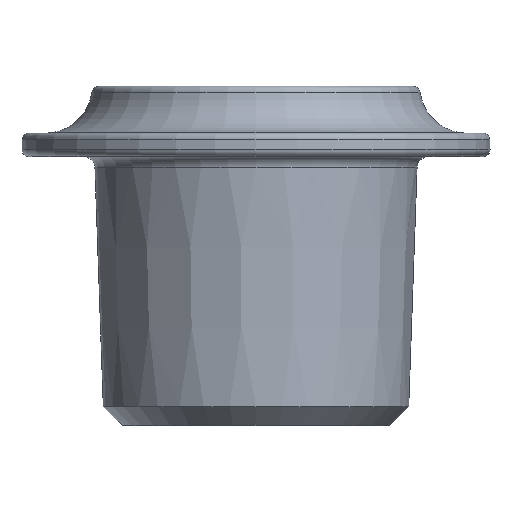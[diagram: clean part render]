
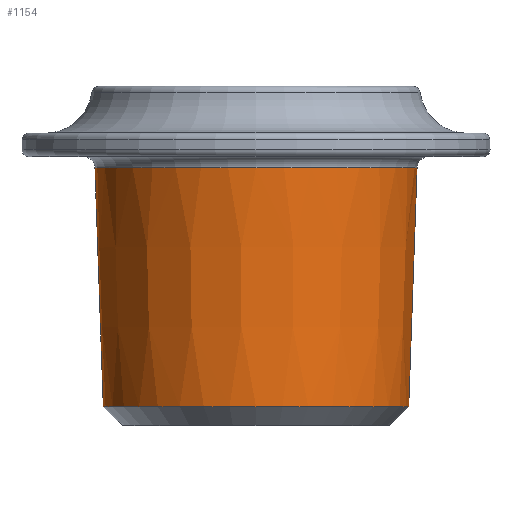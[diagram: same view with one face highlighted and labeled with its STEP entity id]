
A CAD part, top view. The second image highlights one B-rep face of the part: STEP entity #1154.
In plain terms, the highlighted conical face has half-angle 2 degrees and reference radius 6.705 mm.
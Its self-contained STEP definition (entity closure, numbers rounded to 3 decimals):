
#24=CARTESIAN_POINT('',(0.,-10.7,0.));
#25=DIRECTION('',(0.,-1.,0.));
#26=DIRECTION('',(1.,0.,0.));
#27=AXIS2_PLACEMENT_3D('',#24,#25,#26);
#29=CARTESIAN_POINT('',(-6.626,-7.842,0.));
#30=CARTESIAN_POINT('',(-6.626,-7.842,
-0.016));
#31=CARTESIAN_POINT('',(-6.626,-7.843,
-0.048));
#32=CARTESIAN_POINT('',(-6.625,-7.845,
-0.096));
#33=CARTESIAN_POINT('',(-6.625,-7.847,
-0.128));
#34=CARTESIAN_POINT('',(-6.624,-7.848,
-0.144));
#36=CARTESIAN_POINT('',(-6.624,-7.848,
-0.144));
#37=CARTESIAN_POINT('',(-6.615,-7.869,
-0.56));
#38=CARTESIAN_POINT('',(-6.516,-7.913,-1.389));
#39=CARTESIAN_POINT('',(-6.139,-7.979,-2.584));
#40=CARTESIAN_POINT('',(-5.743,-8.022,-3.318));
#41=CARTESIAN_POINT('',(-5.513,-8.044,-3.663));
#43=CARTESIAN_POINT('',(-5.513,-8.044,-3.663));
#44=CARTESIAN_POINT('',(-5.205,-8.073,-4.125));
#45=CARTESIAN_POINT('',(-4.473,-8.132,-4.97));
#46=CARTESIAN_POINT('',(-3.094,-8.222,-5.923));
#47=CARTESIAN_POINT('',(-1.523,-8.313,-6.504));
#48=CARTESIAN_POINT('',(0.142,-8.405,-6.675));
#49=CARTESIAN_POINT('',(1.798,-8.499,-6.426));
#50=CARTESIAN_POINT('',(3.339,-8.595,-5.774));
#51=CARTESIAN_POINT('',(4.224,-8.66,-5.098));
#52=CARTESIAN_POINT('',(4.618,-8.693,-4.71));
#54=CARTESIAN_POINT('',(4.618,-8.693,-4.71));
#55=CARTESIAN_POINT('',(4.659,-8.697,-4.67));
#56=CARTESIAN_POINT('',(4.74,-8.705,-4.588));
#57=CARTESIAN_POINT('',(4.858,-8.72,-4.462));
#58=CARTESIAN_POINT('',(4.934,-8.732,-4.377));
#59=CARTESIAN_POINT('',(4.972,-8.738,-4.333));
#61=CARTESIAN_POINT('',(4.972,-8.738,-4.333));
#62=CARTESIAN_POINT('',(5.174,-8.774,-4.099));
#63=CARTESIAN_POINT('',(5.544,-8.839,-3.605));
#64=CARTESIAN_POINT('',(5.991,-8.918,-2.794));
#65=CARTESIAN_POINT('',(6.21,-8.956,-2.219));
#66=CARTESIAN_POINT('',(6.299,-8.972,-1.925));
#68=CARTESIAN_POINT('',(6.299,-8.972,-1.925));
#69=CARTESIAN_POINT('',(6.305,-8.844,-1.922));
#70=CARTESIAN_POINT('',(6.316,-8.587,-1.916));
#71=CARTESIAN_POINT('',(6.333,-8.202,-1.906));
#72=CARTESIAN_POINT('',(6.344,-7.945,-1.9));
#73=CARTESIAN_POINT('',(6.35,-7.816,-1.896));
#75=CARTESIAN_POINT('',(6.35,-7.816,-1.896));
#76=CARTESIAN_POINT('',(6.186,-7.785,-2.448));
#77=CARTESIAN_POINT('',(5.715,-7.723,-3.508));
#78=CARTESIAN_POINT('',(4.622,-7.631,-4.862));
#79=CARTESIAN_POINT('',(3.218,-7.538,-5.89));
#80=CARTESIAN_POINT('',(1.596,-7.446,-6.523));
#81=CARTESIAN_POINT('',(-0.134,-7.353,
-6.717));
#82=CARTESIAN_POINT('',(-1.857,-7.261,-6.46));
#83=CARTESIAN_POINT('',(-3.457,-7.168,-5.768));
#84=CARTESIAN_POINT('',(-4.826,-7.076,-4.689));
#85=CARTESIAN_POINT('',(-5.871,-6.983,-3.293));
#86=CARTESIAN_POINT('',(-6.306,-6.921,-2.215));
#87=CARTESIAN_POINT('',(-6.45,-6.891,-1.656));
#89=CARTESIAN_POINT('',(-6.45,-6.891,-1.656));
#90=CARTESIAN_POINT('',(-6.458,-6.889,-1.624));
#91=CARTESIAN_POINT('',(-6.475,-6.885,-1.559));
#92=CARTESIAN_POINT('',(-6.498,-6.877,-1.462));
#93=CARTESIAN_POINT('',(-6.512,-6.871,-1.396));
#94=CARTESIAN_POINT('',(-6.519,-6.868,-1.363));
#96=CARTESIAN_POINT('',(-6.519,-6.868,-1.363));
#97=CARTESIAN_POINT('',(-6.548,-6.855,-1.228));
#98=CARTESIAN_POINT('',(-6.597,-6.832,
-0.956));
#99=CARTESIAN_POINT('',(-6.644,-6.81,
-0.544));
#100=CARTESIAN_POINT('',(-6.658,-6.802,
-0.268));
#101=CARTESIAN_POINT('',(-6.661,-6.801,
-0.13));
#113=DIRECTION('',(0.035,0.999,0.));
#114=VECTOR('',#113,10.224);
#115=CARTESIAN_POINT('',(6.526,-10.7,
0.));
#116=LINE('',#115,#114);
#117=DIRECTION('',(0.035,-0.999,0.));
#118=VECTOR('',#117,6.321);
#119=CARTESIAN_POINT('',(-6.883,-0.483,
0.));
#120=LINE('',#119,#118);
#121=CARTESIAN_POINT('',(-6.663,-6.8,
0.));
#122=CARTESIAN_POINT('',(-6.663,-6.801,
-0.014));
#123=CARTESIAN_POINT('',(-6.662,-6.801,
-0.043));
#124=CARTESIAN_POINT('',(-6.662,-6.8,
-0.086));
#125=CARTESIAN_POINT('',(-6.662,-6.801,
-0.116));
#126=CARTESIAN_POINT('',(-6.661,-6.801,
-0.13));
#128=DIRECTION('',(0.035,-0.999,0.));
#129=VECTOR('',#128,2.86);
#130=CARTESIAN_POINT('',(-6.626,-7.842,
0.));
#131=LINE('',#130,#129);
#882=CARTESIAN_POINT('',(0.,-0.483,0.));
#883=DIRECTION('',(0.,1.,0.));
#884=DIRECTION('',(-1.,0.,0.));
#885=AXIS2_PLACEMENT_3D('',#882,#883,#884);
#898=CARTESIAN_POINT('',(6.526,-10.7,
0.));
#899=VERTEX_POINT('',#898);
#902=CARTESIAN_POINT('',(-6.526,-10.7,
0.));
#903=VERTEX_POINT('',#902);
#904=CARTESIAN_POINT('',(-6.626,-7.842,
0.));
#905=VERTEX_POINT('',#904);
#906=VERTEX_POINT('',#34);
#907=VERTEX_POINT('',#41);
#908=VERTEX_POINT('',#52);
#909=VERTEX_POINT('',#59);
#910=VERTEX_POINT('',#66);
#911=VERTEX_POINT('',#73);
#912=VERTEX_POINT('',#87);
#913=VERTEX_POINT('',#94);
#914=VERTEX_POINT('',#101);
#915=VERTEX_POINT('',#121);
#916=CARTESIAN_POINT('',(-6.883,-0.483,
0.));
#917=VERTEX_POINT('',#916);
#918=CARTESIAN_POINT('',(6.883,-0.483,0.));
#919=VERTEX_POINT('',#918);
#1118=CARTESIAN_POINT('',(0.,-5.592,0.));
#1119=DIRECTION('',(0.,1.,0.));
#1120=DIRECTION('',(1.,0.,0.));
#1121=AXIS2_PLACEMENT_3D('',#1118,#1119,#1120);
#1122=CONICAL_SURFACE('',#1121,6.705,2.);
#1123=ORIENTED_EDGE('',*,*,#1112,.T.);
#1125=ORIENTED_EDGE('',*,*,#1124,.F.);
#1127=ORIENTED_EDGE('',*,*,#1126,.T.);
#1129=ORIENTED_EDGE('',*,*,#1128,.T.);
#1131=ORIENTED_EDGE('',*,*,#1130,.T.);
#1133=ORIENTED_EDGE('',*,*,#1132,.T.);
#1135=ORIENTED_EDGE('',*,*,#1134,.T.);
#1137=ORIENTED_EDGE('',*,*,#1136,.T.);
#1139=ORIENTED_EDGE('',*,*,#1138,.T.);
#1141=ORIENTED_EDGE('',*,*,#1140,.T.);
#1143=ORIENTED_EDGE('',*,*,#1142,.T.);
#1145=ORIENTED_EDGE('',*,*,#1144,.F.);
#1147=ORIENTED_EDGE('',*,*,#1146,.F.);
#1149=ORIENTED_EDGE('',*,*,#1148,.T.);
#1151=ORIENTED_EDGE('',*,*,#1150,.F.);
#1152=EDGE_LOOP('',(#1123,#1125,#1127,#1129,#1131,#1133,#1135,#1137,#1139,#1141,
#1143,#1145,#1147,#1149,#1151));
#1153=FACE_OUTER_BOUND('',#1152,.F.);
#1154=ADVANCED_FACE('',(#1153),#1122,.T.);
#28=CIRCLE('',#27,6.526);
#35=B_SPLINE_CURVE_WITH_KNOTS('',3,(#29,#30,#31,#32,#33,#34),.UNSPECIFIED.,.F.,
.F.,(4,1,1,4),(0.,0.333,0.667,1.),.UNSPECIFIED.);
#42=B_SPLINE_CURVE_WITH_KNOTS('',3,(#36,#37,#38,#39,#40,#41),.UNSPECIFIED.,.F.,
.F.,(4,1,1,4),(0.,0.333,0.667,1.),.UNSPECIFIED.);
#53=B_SPLINE_CURVE_WITH_KNOTS('',3,(#43,#44,#45,#46,#47,#48,#49,#50,#51,#52),
.UNSPECIFIED.,.F.,.F.,(4,1,1,1,1,1,1,4),(0.,0.143,
0.286,0.429,0.571,0.714,
0.857,1.),.UNSPECIFIED.);
#60=B_SPLINE_CURVE_WITH_KNOTS('',3,(#54,#55,#56,#57,#58,#59),.UNSPECIFIED.,.F.,
.F.,(4,1,1,4),(0.,0.333,0.667,1.),.UNSPECIFIED.);
#67=B_SPLINE_CURVE_WITH_KNOTS('',3,(#61,#62,#63,#64,#65,#66),.UNSPECIFIED.,.F.,
.F.,(4,1,1,4),(0.,0.333,0.667,1.),.UNSPECIFIED.);
#74=B_SPLINE_CURVE_WITH_KNOTS('',3,(#68,#69,#70,#71,#72,#73),.UNSPECIFIED.,.F.,
.F.,(4,1,1,4),(0.,0.333,0.667,1.),.UNSPECIFIED.);
#88=B_SPLINE_CURVE_WITH_KNOTS('',3,(#75,#76,#77,#78,#79,#80,#81,#82,#83,#84,#85,
#86,#87),.UNSPECIFIED.,.F.,.F.,(4,1,1,1,1,1,1,1,1,1,4),(0.,0.1,0.2,0.3,
0.4,0.5,0.6,0.7,0.8,0.9,1.),.UNSPECIFIED.);
#95=B_SPLINE_CURVE_WITH_KNOTS('',3,(#89,#90,#91,#92,#93,#94),.UNSPECIFIED.,.F.,
.F.,(4,1,1,4),(0.,0.333,0.667,1.),.UNSPECIFIED.);
#102=B_SPLINE_CURVE_WITH_KNOTS('',3,(#96,#97,#98,#99,#100,#101),.UNSPECIFIED.,
.F.,.F.,(4,1,1,4),(0.,0.333,0.667,1.),
.UNSPECIFIED.);
#127=B_SPLINE_CURVE_WITH_KNOTS('',3,(#121,#122,#123,#124,#125,#126),
.UNSPECIFIED.,.F.,.F.,(4,1,1,4),(0.,0.333,0.667,1.),
.UNSPECIFIED.);
#886=CIRCLE('',#885,6.883);
#1112=EDGE_CURVE('',#899,#903,#28,.T.);
#1124=EDGE_CURVE('',#905,#903,#131,.T.);
#1126=EDGE_CURVE('',#905,#906,#35,.T.);
#1128=EDGE_CURVE('',#906,#907,#42,.T.);
#1130=EDGE_CURVE('',#907,#908,#53,.T.);
#1132=EDGE_CURVE('',#908,#909,#60,.T.);
#1134=EDGE_CURVE('',#909,#910,#67,.T.);
#1136=EDGE_CURVE('',#910,#911,#74,.T.);
#1138=EDGE_CURVE('',#911,#912,#88,.T.);
#1140=EDGE_CURVE('',#912,#913,#95,.T.);
#1142=EDGE_CURVE('',#913,#914,#102,.T.);
#1144=EDGE_CURVE('',#915,#914,#127,.T.);
#1146=EDGE_CURVE('',#917,#915,#120,.T.);
#1148=EDGE_CURVE('',#917,#919,#886,.T.);
#1150=EDGE_CURVE('',#899,#919,#116,.T.);
